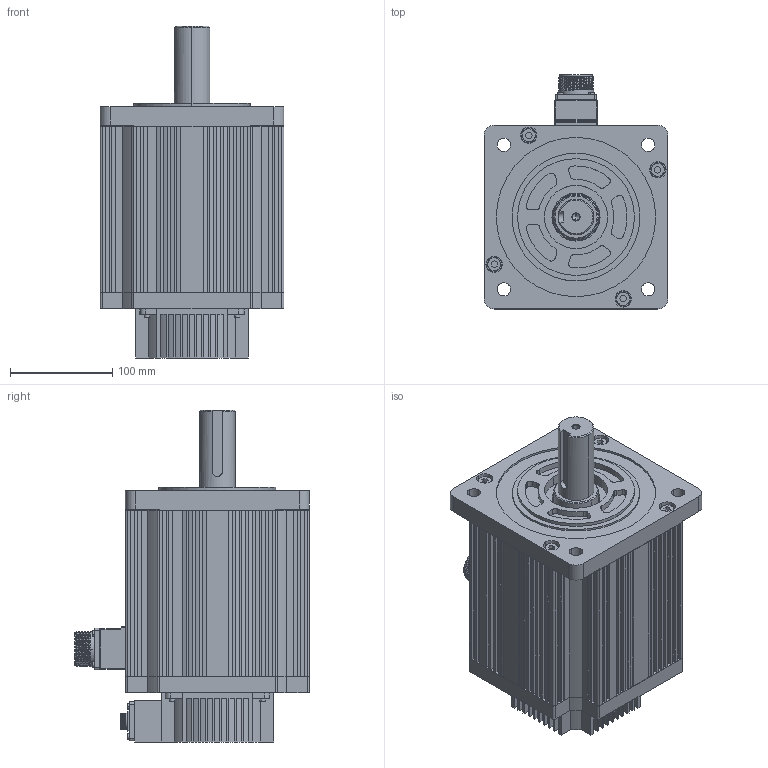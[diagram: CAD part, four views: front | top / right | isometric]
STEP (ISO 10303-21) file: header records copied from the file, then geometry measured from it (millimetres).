
FILE_DESCRIPTION (( 'STEP AP203' ), '1' );
FILE_NAME ('VM5-M18D-5R515-D1.STEP', '2019-02-23T02:19:24', ( 'ZSM' ), ( '' ), 'SwSTEP 2.0', 'SolidWorks 2014', '' );
FILE_SCHEMA (( 'CONFIG_CONTROL_DESIGN' ));
Length unit declared in the file: millimetre
Products named in the file (17): D18B102P; VM5-M18D-5R515-D1; GB T848-2002 ±3; GX2-D18B101E_D18B101E3; GB／T70．1-2000内六角圆柱头螺钉M3×10; D18B1003E_D18B1003E3; GB／T70．1-2000内六角圆柱头螺钉M3×6; D18B103G_D18B103G1; GB／T848-2002小垫圈A级8×1．6; D18B102M1; GB／T70．1-2000内六角圆柱头螺钉M8×20; D18B1004G_D18B1004G3; 晤鎢ん裔啣 D18B102AB; D18B102N1-; CMS3102A22-22P-Z; D13B111A; 瑤諾脣芛 16M-9H
Assembly tree (54 placements, depth 3):
  VM5-M18D-5R515-D1
    D18B1003E_D18B1003E3
      GX2-D18B101E_D18B101E3
    D18B1004G_D18B1004G3
      D18B103G_D18B103G1
      D18B102M1
    D18B102N1-
    D13B111A
    D18B102P
    GB T848-2002 ±3  x9
    GB／T70．1-2000内六角圆柱头螺钉M3×10  x11
    GB／T70．1-2000内六角圆柱头螺钉M3×6  x7
    GB／T848-2002小垫圈A级8×1．6  x8
    GB／T70．1-2000内六角圆柱头螺钉M8×20  x8
    晤鎢ん裔啣 D18B102AB
    CMS3102A22-22P-Z
    瑤諾脣芛 16M-9H
Bounding box: 180 x 229.6 x 325 mm (x, y, z)
Volume: 2401547.3 mm3; surface area: 632623.1 mm2
Topology: 52 solids, 52 shells, 1866 faces, 4571 edges, 2932 vertices
Faces by surface type: plane 855, cylinder 717, torus 162, cone 110, sphere 14, bspline 8
Entity records: 46154 total; most frequent: CARTESIAN_POINT 10019, DIRECTION 7245, ORIENTED_EDGE 6782, EDGE_CURVE 3391, AXIS2_PLACEMENT_3D 2625, VERTEX_POINT 2206, VECTOR 1995, LINE 1995
